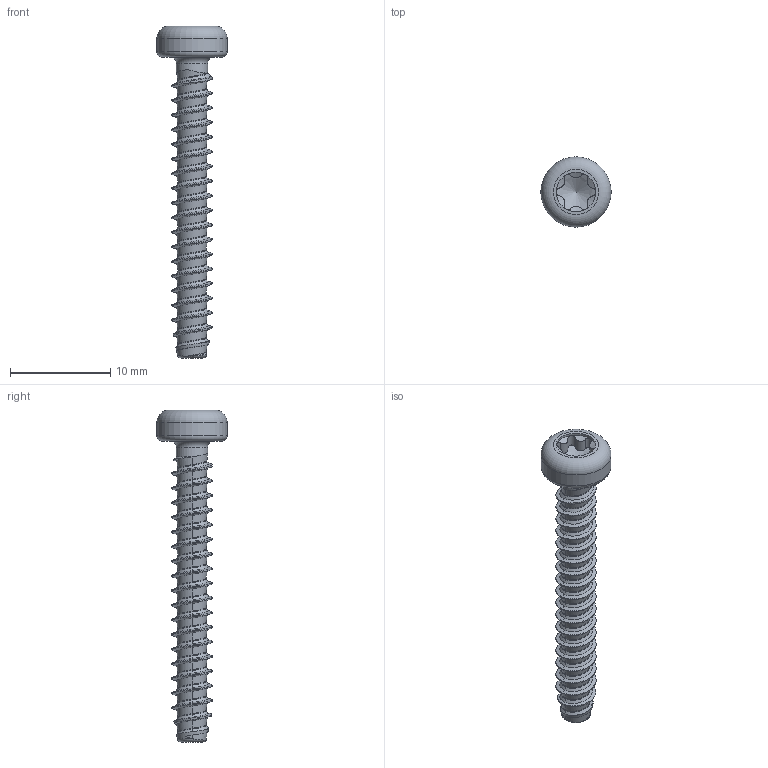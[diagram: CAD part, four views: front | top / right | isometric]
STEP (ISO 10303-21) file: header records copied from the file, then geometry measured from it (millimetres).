
FILE_DESCRIPTION(/* description */ (''),/* implementation_level */ '2;1');
FILE_NAME(/* name */ 'KN6039-STSplus-40x30-T20.step',/* time_stamp */ '2017-10-11T15:59:59+02:00',/* author */ (''),/* organization */ (''),/* preprocessor_version */ 'ST-DEVELOPER v16',/* originating_system */ 'SIEMENS PLM Software NX 10.0',/* authorisation */ '');
FILE_SCHEMA (('AUTOMOTIVE_DESIGN { 1 0 10303 214 3 1 1 1 }'));
Length unit declared in the file: millimetre
Products named in the file (1): KN6039-STSplus-40x30-T20
Bounding box: 7 x 7 x 33.1 mm (x, y, z)
Volume: 323.8 mm3; surface area: 585 mm2
Topology: 1 solids, 1 shells, 133 faces, 304 edges, 174 vertices
Faces by surface type: bspline 101, cylinder 16, cone 9, torus 4, plane 3
Full cylindrical faces by diameter (mm): 3.13 x1, 3.95 x1, 7 x1
Entity records: 9384 total; most frequent: CARTESIAN_POINT 7096, ORIENTED_EDGE 584, EDGE_CURVE 292, DIRECTION 210, VERTEX_POINT 171, B_SPLINE_CURVE_WITH_KNOTS 166, EDGE_LOOP 142, ADVANCED_FACE 133
